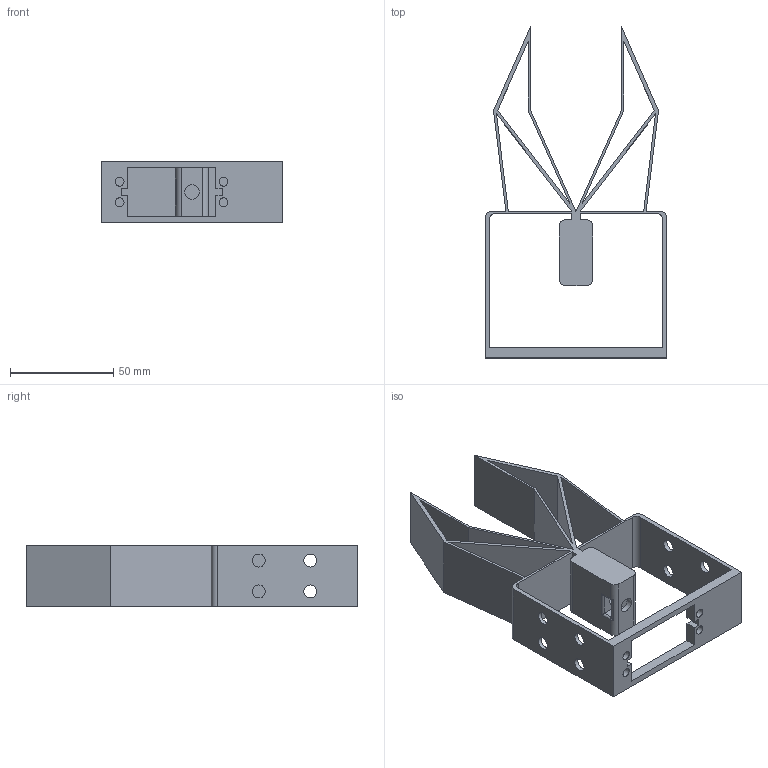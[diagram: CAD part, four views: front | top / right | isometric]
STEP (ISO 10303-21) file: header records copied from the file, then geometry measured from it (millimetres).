
FILE_DESCRIPTION(/* description */ ('STEP AP242 Edition 2','CAx-IF Rec.Pracs.---Representation and Presentation of Product Manufacturing Information (PMI)---4.0---2014-10-13','CAx-IF Rec.Pracs.---3D Tessellated Geometry---0.4---2014-09-14','2;1','CAx-IF Rec.Pracs.---User Defined Attributes---1.5---2016-08-15'),/* implementation_level */ '2;1');
FILE_NAME(/* name */ 'Assembly 1 - Part 1',/* time_stamp */ '2026-08-25T12:56:07Z',/* author */ (''),/* organization */ (''),/* preprocessor_version */ 'ST-DEVELOPER v20',/* originating_system */ 'ONSHAPE BY PTC INC, 1.219',/* authorisation */ ' ');
FILE_SCHEMA (('AP242_MANAGED_MODEL_BASED_3D_ENGINEERING_MIM_LF { 1 0 10303 442 3 1 4 }'));
Length unit declared in the file: metre
Products named in the file (1): Part 1
Bounding box: 88 x 160.9 x 30 mm (x, y, z)
Volume: 51992.6 mm3; surface area: 52483.5 mm2
Topology: 1 solids, 1 shells, 88 faces, 257 edges, 172 vertices
Faces by surface type: plane 60, cylinder 26, torus 2
Full cylindrical faces by diameter (mm): 4.3 x4, 6.3 x8, 7 x2
Entity records: 2889 total; most frequent: CARTESIAN_POINT 500, ORIENTED_EDGE 474, DIRECTION 467, EDGE_CURVE 237, LINE 181, VECTOR 181, VERTEX_POINT 166, AXIS2_PLACEMENT_3D 143
